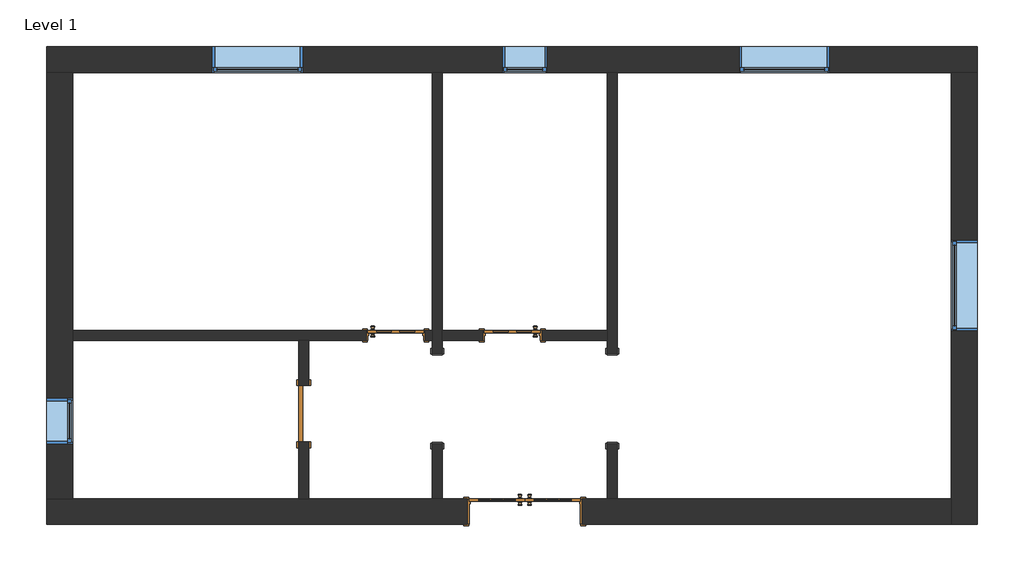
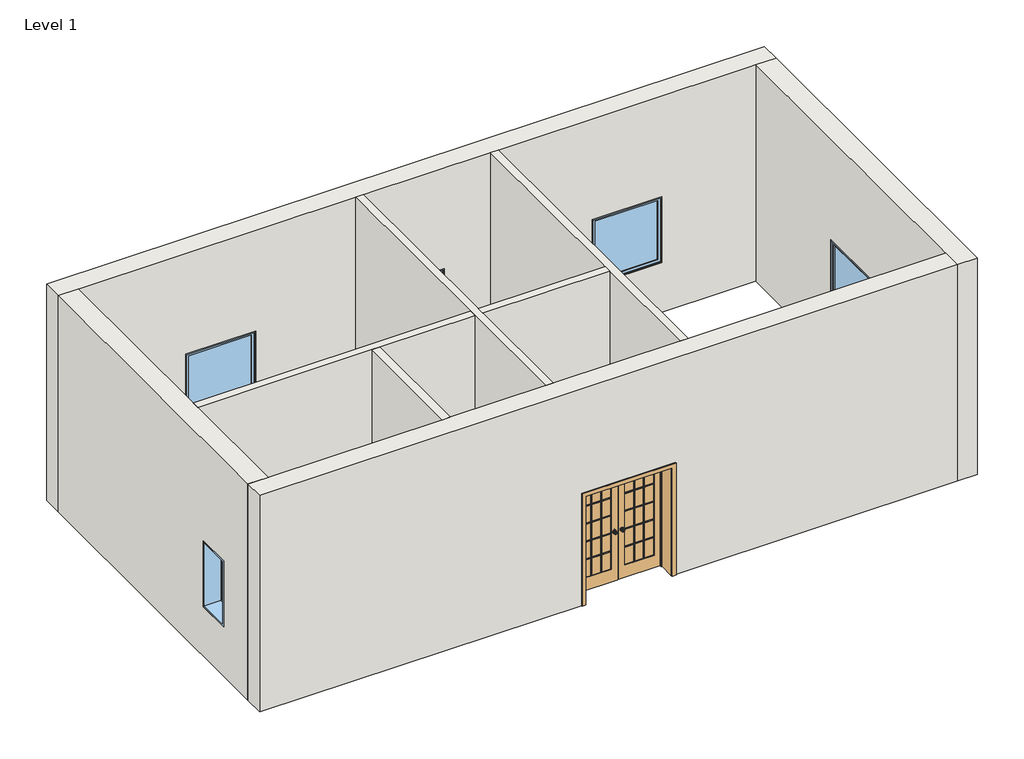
# One storey: 8 walls, 5 windows, 4 doors, 2 proxies.
"""IFC4 building model written with IfcOpenShell, lengths in millimetres."""

from ifc_helpers import new_model, si_unit, frame, origin, place, context, project, spatial, polyline, outline, extrude, faceted_brep, transform, mapped, element, save
from components import m_passage_opening_cased_1220_x_2134mm_87a8d9c2, m_door_interior_double_full_glass_wood_1500_x_2000mm_952f4878, m_door_interior_single_4_panel_wood_750_x_2000mm_f921d021, m_door_interior_single_4_panel_wood_750_x_2000mm_e4180e06, m_single_flush_0762_x_2134mm_0d89e411, m_fixed_0610_x_1220mm_2c28ef1d, m_fixed_1220_x_1220mm_e08ff7af

model = new_model("IFC4")

# Units and contexts
model_context = context("Model", 3, world=origin())
ifc_project = project(units=[si_unit("LENGTHUNIT", "METRE", prefix="MILLI")], contexts=[model_context])

# Site, building, storey
site = spatial("IfcSite", under=ifc_project)
building = spatial("IfcBuilding", under=site)
storey = spatial("IfcBuildingStorey", under=building, Name="Level 1", Elevation=0.0)

# Proxies
placement = place(None, origin())
m_passage_opening_cased_1220_x_2134mm_shape = m_passage_opening_cased_1220_x_2134mm_87a8d9c2(model_context)
element("IfcBuildingElementProxy", 1, Name="M_Passage Opening-Cased : 1220 x 2134mm", ObjectType="M_Passage Opening-Cased : 1220 x 2134mm", at=placement, inside=storey, context=model_context, shape_type="MappedRepresentation", body=[
    mapped(m_passage_opening_cased_1220_x_2134mm_shape, transform((-7665.3416203, -1982.6925047, 0.0), x_axis=(0.0, 1.0, 0.0), y_axis=(-1.0, 0.0, 0.0), z_axis=(0.0, 0.0, 1.0))),
])
element("IfcBuildingElementProxy", 2, Name="M_Passage Opening-Cased : 1220 x 2134mm", ObjectType="M_Passage Opening-Cased : 1220 x 2134mm", at=placement, inside=storey, context=model_context, shape_type="MappedRepresentation", body=[
    mapped(m_passage_opening_cased_1220_x_2134mm_shape, transform((-10019.0916203, -1999.0698181, 0.0), x_axis=(0.0, -1.0, 0.0), y_axis=(1.0, 0.0, 0.0), z_axis=(0.0, 0.0, 1.0))),
])

# Doors
m_door_interior_double_full_glass_wood_1500_x_2000mm_shape = m_door_interior_double_full_glass_wood_1500_x_2000mm_952f4878(model_context)
element("IfcDoor", 3, ObjectType="M_Door-Interior-Double-Full Glass-Wood : 1500 x 2000mm", at=placement, inside=storey, context=model_context, shape_type="MappedRepresentation", body=[
    mapped(m_door_interior_double_full_glass_wood_1500_x_2000mm_shape, transform((-8842.2166203, -3511.7061614, 0.0), x_axis=(1.0, 0.0, 0.0), y_axis=(0.0, 1.0, 0.0), z_axis=(0.0, 0.0, 1.0))),
])
m_door_interior_single_4_panel_wood_750_x_2000mm_shape = m_door_interior_single_4_panel_wood_750_x_2000mm_f921d021(model_context)
element("IfcDoor", 4, ObjectType="M_Door-Interior-Single-4_Panel-Wood : 750 x 2000mm", at=placement, inside=storey, context=model_context, shape_type="MappedRepresentation", body=[
    mapped(m_door_interior_single_4_panel_wood_750_x_2000mm_shape, transform((-9010.0916203, -1134.9561614, 0.0), x_axis=(-1.0, 0.0, 0.0), y_axis=(0.0, -1.0, 0.0), z_axis=(0.0, 0.0, 1.0))),
])
m_door_interior_single_4_panel_wood_750_x_2000mm_2_shape = m_door_interior_single_4_panel_wood_750_x_2000mm_e4180e06(model_context)
element("IfcDoor", 5, ObjectType="M_Door-Interior-Single-4_Panel-Wood : 750 x 2000mm", at=placement, inside=storey, context=model_context, shape_type="MappedRepresentation", body=[
    mapped(m_door_interior_single_4_panel_wood_750_x_2000mm_2_shape, transform((-10580.9666203, -1134.9561614, 0.0), x_axis=(1.0, 0.0, 0.0), y_axis=(0.0, 1.0, 0.0), z_axis=(0.0, 0.0, 1.0))),
])
m_single_flush_0762_x_2134mm_shape = m_single_flush_0762_x_2134mm_0d89e411(model_context)
element("IfcDoor", 6, ObjectType="M_Single-Flush : 0762 x 2134mm", at=placement, inside=storey, context=model_context, shape_type="MappedRepresentation", body=[
    mapped(m_single_flush_0762_x_2134mm_shape, transform((-11819.5916203, -2196.8811614, 0.0), x_axis=(0.0, 1.0, 0.0), y_axis=(-1.0, 0.0, 0.0), z_axis=(0.0, 0.0, 1.0))),
])

# Walls
element("IfcWall", 7, ObjectType="Exterior - Brick on Mtl. Stud", at=placement, inside=storey, context=model_context, shape_type="Brep", body=[
    faceted_brep([(-15285.3416203, 2406.1188386, 0.0), (-14935.3416203, 2406.1188386, 0.0), (-10086.8416203, 2406.1188386, 0.0), (-9951.3416203, 2406.1188386, 0.0), (-7733.0916203, 2406.1188386, 0.0), (-7597.5916203, 2406.1188386, 0.0), (-3093.3416203, 2406.1188386, 0.0), (-2743.3416203, 2406.1188386, 0.0), (-2743.3416203, 2406.1188386, 4000.0), (-3093.3416203, 2406.1188386, 4000.0), (-7597.5916203, 2406.1188386, 4000.0), (-7733.0916203, 2406.1188386, 4000.0), (-9951.3416203, 2406.1188386, 4000.0), (-10086.8416203, 2406.1188386, 4000.0), (-14935.3416203, 2406.1188386, 4000.0), (-15285.3416203, 2406.1188386, 4000.0), (-8537.1916203, 2406.1188386, 915.0), (-9147.1916203, 2406.1188386, 915.0), (-9147.1916203, 2406.1188386, 2135.0), (-8537.1916203, 2406.1188386, 2135.0), (-11833.3416203, 2406.1188386, 915.0), (-13053.3416203, 2406.1188386, 915.0), (-13053.3416203, 2406.1188386, 2135.0), (-11833.3416203, 2406.1188386, 2135.0), (-4735.4666203, 2406.1188386, 915.0), (-5955.4666203, 2406.1188386, 915.0), (-5955.4666203, 2406.1188386, 2135.0), (-4735.4666203, 2406.1188386, 2135.0), (-15285.3416203, 2756.1188386, 0.0), (-15285.3416203, 2756.1188386, 4000.0), (-2743.3416203, 2756.1188386, 4000.0), (-2743.3416203, 2756.1188386, 0.0), (-8537.1916203, 2756.1188386, 915.0), (-8537.1916203, 2756.1188386, 2135.0), (-9147.1916203, 2756.1188386, 2135.0), (-9147.1916203, 2756.1188386, 915.0), (-11833.3416203, 2756.1188386, 915.0), (-11833.3416203, 2756.1188386, 2135.0), (-13053.3416203, 2756.1188386, 2135.0), (-13053.3416203, 2756.1188386, 915.0), (-4735.4666203, 2756.1188386, 915.0), (-4735.4666203, 2756.1188386, 2135.0), (-5955.4666203, 2756.1188386, 2135.0), (-5955.4666203, 2756.1188386, 915.0)], [[[0, 1, 2, 3, 4, 5, 6, 7, 8, 9, 10, 11, 12, 13, 14, 15], [16, 17, 18, 19], [20, 21, 22, 23], [24, 25, 26, 27]], [[28, 29, 30, 31], [32, 33, 34, 35], [36, 37, 38, 39], [40, 41, 42, 43]], [[7, 6, 5, 4, 3, 2, 1, 0, 28, 31]], [[15, 14, 13, 12, 11, 10, 9, 8, 30, 29]], [[8, 7, 31, 30]], [[0, 15, 29, 28]], [[33, 32, 16, 19]], [[34, 33, 19, 18]], [[35, 34, 18, 17]], [[32, 35, 17, 16]], [[37, 36, 20, 23]], [[38, 37, 23, 22]], [[39, 38, 22, 21]], [[36, 39, 21, 20]], [[41, 40, 24, 27]], [[42, 41, 27, 26]], [[43, 42, 26, 25]], [[40, 43, 25, 24]]]),
])
element("IfcWall", 8, ObjectType="Exterior - Brick on Mtl. Stud", at=placement, inside=storey, context=model_context, shape_type="Brep", body=[
    faceted_brep([(-3093.3416203, 2406.1188386, 0.0), (-3093.3416203, -3339.8811614, 0.0), (-3093.3416203, -3689.8811614, 0.0), (-3093.3416203, -3689.8811614, 4000.0), (-3093.3416203, -3339.8811614, 4000.0), (-3093.3416203, 2406.1188386, 4000.0), (-3093.3416203, -1076.8811614, 915.0), (-3093.3416203, 143.1188386, 915.0), (-3093.3416203, 143.1188386, 2135.0), (-3093.3416203, -1076.8811614, 2135.0), (-2743.3416203, 2406.1188386, 0.0), (-2743.3416203, 2406.1188386, 4000.0), (-2743.3416203, -3689.8811614, 4000.0), (-2743.3416203, -3689.8811614, 0.0), (-2743.3416203, -1076.8811614, 915.0), (-2743.3416203, -1076.8811614, 2135.0), (-2743.3416203, 143.1188386, 2135.0), (-2743.3416203, 143.1188386, 915.0)], [[[0, 1, 2, 3, 4, 5], [6, 7, 8, 9]], [[10, 11, 12, 13], [14, 15, 16, 17]], [[2, 1, 0, 10, 13]], [[5, 4, 3, 12, 11]], [[0, 5, 11, 10]], [[3, 2, 13, 12]], [[15, 14, 6, 9]], [[16, 15, 9, 8]], [[17, 16, 8, 7]], [[14, 17, 7, 6]]]),
])
element("IfcWall", 9, ObjectType="Exterior - Brick on Mtl. Stud", at=placement, inside=storey, context=model_context, shape_type="Brep", body=[
    faceted_brep([(-15285.3416203, -3339.8811614, 4000.0), (-14935.3416203, -3339.8811614, 4000.0), (-11887.3416203, -3339.8811614, 4000.0), (-11751.8416203, -3339.8811614, 4000.0), (-10086.8416203, -3339.8811614, 4000.0), (-9951.3416203, -3339.8811614, 4000.0), (-7733.0916203, -3339.8811614, 4000.0), (-7597.5916203, -3339.8811614, 4000.0), (-3093.3416203, -3339.8811614, 4000.0), (-3093.3416203, -3339.8811614, 0.0), (-7597.5916203, -3339.8811614, 0.0), (-7733.0916203, -3339.8811614, 0.0), (-8067.2166203, -3339.8811614, 0.0), (-8067.2166203, -3339.8811614, 2025.0), (-9617.2166203, -3339.8811614, 2025.0), (-9617.2166203, -3339.8811614, 0.0), (-9951.3416203, -3339.8811614, 0.0), (-10086.8416203, -3339.8811614, 0.0), (-11751.8416203, -3339.8811614, 0.0), (-11887.3416203, -3339.8811614, 0.0), (-14935.3416203, -3339.8811614, 0.0), (-15285.3416203, -3339.8811614, 0.0), (-3093.3416203, -3689.8811614, 4000.0), (-15285.3416203, -3689.8811614, 4000.0), (-15285.3416203, -3689.8811614, 0.0), (-9617.2166203, -3689.8811614, 0.0), (-9617.2166203, -3689.8811614, 2025.0), (-8067.2166203, -3689.8811614, 2025.0), (-8067.2166203, -3689.8811614, 0.0), (-3093.3416203, -3689.8811614, 0.0)], [[[0, 1, 2, 3, 4, 5, 6, 7, 8, 9, 10, 11, 12, 13, 14, 15, 16, 17, 18, 19, 20, 21]], [[22, 23, 24, 25, 26, 27, 28, 29]], [[9, 29, 28, 12, 11, 10]], [[24, 21, 20, 19, 18, 17, 16, 15, 25]], [[8, 7, 6, 5, 4, 3, 2, 1, 0, 23, 22]], [[9, 8, 22, 29]], [[0, 21, 24, 23]], [[27, 13, 12, 28]], [[13, 27, 26, 14]], [[14, 26, 25, 15]]]),
])
element("IfcWall", 10, ObjectType="Exterior - Brick on Mtl. Stud", at=placement, inside=storey, context=model_context, shape_type="Brep", body=[
    faceted_brep([(-14935.3416203, -3339.8811614, 0.0), (-14935.3416203, -1205.8811614, 0.0), (-14935.3416203, -1070.3811614, 0.0), (-14935.3416203, 2406.1188386, 0.0), (-14935.3416203, 2406.1188386, 4000.0), (-14935.3416203, -1070.3811614, 4000.0), (-14935.3416203, -1205.8811614, 4000.0), (-14935.3416203, -3339.8811614, 4000.0), (-14935.3416203, -1989.8811614, 915.0), (-14935.3416203, -2599.8811614, 915.0), (-14935.3416203, -2599.8811614, 2135.0), (-14935.3416203, -1989.8811614, 2135.0), (-15285.3416203, -3339.8811614, 0.0), (-15285.3416203, -3339.8811614, 4000.0), (-15285.3416203, 2406.1188386, 4000.0), (-15285.3416203, 2406.1188386, 0.0), (-15285.3416203, -1989.8811614, 915.0), (-15285.3416203, -1989.8811614, 2135.0), (-15285.3416203, -2599.8811614, 2135.0), (-15285.3416203, -2599.8811614, 915.0)], [[[0, 1, 2, 3, 4, 5, 6, 7], [8, 9, 10, 11]], [[12, 13, 14, 15], [16, 17, 18, 19]], [[3, 2, 1, 0, 12, 15]], [[7, 6, 5, 4, 14, 13]], [[0, 7, 13, 12]], [[4, 3, 15, 14]], [[17, 16, 8, 11]], [[18, 17, 11, 10]], [[19, 18, 10, 9]], [[16, 19, 9, 8]]]),
])
element("IfcWall", 11, ObjectType="Interior - 135mm Partition (2-hr)", at=placement, inside=storey, context=model_context, shape_type="Brep", body=[
    faceted_brep([(-7733.0916203, 2406.1188386, 0.0), (-7733.0916203, -1070.3811614, 0.0), (-7733.0916203, -1205.8811614, 0.0), (-7733.0916203, -1380.8811614, 0.0), (-7733.0916203, -1380.8811614, 2134.0), (-7733.0916203, -2600.8811614, 2134.0), (-7733.0916203, -2600.8811614, 0.0), (-7733.0916203, -3339.8811614, 0.0), (-7733.0916203, -3339.8811614, 4000.0), (-7733.0916203, -1205.8811614, 4000.0), (-7733.0916203, -1070.3811614, 4000.0), (-7733.0916203, 2406.1188386, 4000.0), (-7597.5916203, -1380.8811614, 2134.0), (-7597.5916203, -1380.8811614, 0.0), (-7597.5916203, 2406.1188386, 0.0), (-7597.5916203, 2406.1188386, 4000.0), (-7597.5916203, -3339.8811614, 4000.0), (-7597.5916203, -3339.8811614, 0.0), (-7597.5916203, -2600.8811614, 0.0), (-7597.5916203, -2600.8811614, 2134.0)], [[[0, 1, 2, 3, 4, 5, 6, 7, 8, 9, 10, 11]], [[12, 13, 14, 15, 16, 17, 18, 19]], [[18, 17, 7, 6]], [[14, 13, 3, 2, 1, 0]], [[11, 10, 9, 8, 16, 15]], [[0, 11, 15, 14]], [[8, 7, 17, 16]], [[6, 5, 19, 18]], [[4, 3, 13, 12]], [[5, 4, 12, 19]]]),
])
element("IfcWall", 12, ObjectType="Interior - 135mm Partition (2-hr)", at=placement, inside=storey, context=model_context, shape_type="Brep", body=[
    faceted_brep([(-10086.8416203, -2600.8811614, 2134.0), (-10086.8416203, -2600.8811614, 0.0), (-10086.8416203, -3339.8811614, 0.0), (-10086.8416203, -3339.8811614, 4000.0), (-10086.8416203, -1205.8811614, 4000.0), (-10086.8416203, -1070.3811614, 4000.0), (-10086.8416203, 2406.1188386, 4000.0), (-10086.8416203, 2406.1188386, 0.0), (-10086.8416203, -1070.3811614, 0.0), (-10086.8416203, -1205.8811614, 0.0), (-10086.8416203, -1380.8811614, 0.0), (-10086.8416203, -1380.8811614, 2134.0), (-9951.3416203, -3339.8811614, 0.0), (-9951.3416203, -2600.8811614, 0.0), (-9951.3416203, -2600.8811614, 2134.0), (-9951.3416203, -1380.8811614, 2134.0), (-9951.3416203, -1380.8811614, 0.0), (-9951.3416203, -1205.8811614, 0.0), (-9951.3416203, -1070.3811614, 0.0), (-9951.3416203, 2406.1188386, 0.0), (-9951.3416203, 2406.1188386, 4000.0), (-9951.3416203, -1070.3811614, 4000.0), (-9951.3416203, -1205.8811614, 4000.0), (-9951.3416203, -3339.8811614, 4000.0)], [[[0, 1, 2, 3, 4, 5, 6, 7, 8, 9, 10, 11]], [[12, 13, 14, 15, 16, 17, 18, 19, 20, 21, 22, 23]], [[2, 1, 13, 12]], [[10, 9, 8, 7, 19, 18, 17, 16]], [[6, 5, 4, 3, 23, 22, 21, 20]], [[7, 6, 20, 19]], [[3, 2, 12, 23]], [[16, 15, 11, 10]], [[14, 13, 1, 0]], [[15, 14, 0, 11]]]),
])
element("IfcWall", 13, ObjectType="Interior - 135mm Partition (2-hr)", at=placement, inside=storey, context=model_context, shape_type="Brep", body=[
    faceted_brep([(-14935.3416203, -1205.8811614, 4000.0), (-14935.3416203, -1205.8811614, 0.0), (-11887.3416203, -1205.8811614, 0.0), (-11751.8416203, -1205.8811614, 0.0), (-10980.9666203, -1205.8811614, 0.0), (-10980.9666203, -1205.8811614, 2025.0), (-10180.9666203, -1205.8811614, 2025.0), (-10180.9666203, -1205.8811614, 0.0), (-10086.8416203, -1205.8811614, 0.0), (-10086.8416203, -1205.8811614, 4000.0), (-11751.8416203, -1205.8811614, 4000.0), (-11887.3416203, -1205.8811614, 4000.0), (-14935.3416203, -1070.3811614, 0.0), (-14935.3416203, -1070.3811614, 4000.0), (-10086.8416203, -1070.3811614, 4000.0), (-10086.8416203, -1070.3811614, 0.0), (-10180.9666203, -1070.3811614, 0.0), (-10180.9666203, -1070.3811614, 2025.0), (-10980.9666203, -1070.3811614, 2025.0), (-10980.9666203, -1070.3811614, 0.0)], [[[0, 1, 2, 3, 4, 5, 6, 7, 8, 9, 10, 11]], [[12, 13, 14, 15, 16, 17, 18, 19]], [[1, 12, 19, 4, 3, 2]], [[7, 16, 15, 8]], [[13, 0, 11, 10, 9, 14]], [[1, 0, 13, 12]], [[9, 8, 15, 14]], [[6, 17, 16, 7]], [[17, 6, 5, 18]], [[18, 5, 4, 19]]]),
    faceted_brep([(-7733.0916203, -1205.8811614, 0.0), (-7733.0916203, -1205.8811614, 4000.0), (-9951.3416203, -1205.8811614, 4000.0), (-9951.3416203, -1205.8811614, 0.0), (-9410.0916203, -1205.8811614, 0.0), (-9410.0916203, -1205.8811614, 2025.0), (-8610.0916203, -1205.8811614, 2025.0), (-8610.0916203, -1205.8811614, 0.0), (-7733.0916203, -1070.3811614, 4000.0), (-7733.0916203, -1070.3811614, 0.0), (-8610.0916203, -1070.3811614, 0.0), (-8610.0916203, -1070.3811614, 2025.0), (-9410.0916203, -1070.3811614, 2025.0), (-9410.0916203, -1070.3811614, 0.0), (-9951.3416203, -1070.3811614, 0.0), (-9951.3416203, -1070.3811614, 4000.0)], [[[0, 1, 2, 3, 4, 5, 6, 7]], [[8, 9, 10, 11, 12, 13, 14, 15]], [[9, 0, 7, 10]], [[13, 4, 3, 14]], [[1, 8, 15, 2]], [[1, 0, 9, 8]], [[3, 2, 15, 14]], [[5, 4, 13, 12]], [[6, 5, 12, 11]], [[7, 6, 11, 10]]]),
])
element("IfcWall", 14, ObjectType="Interior - 135mm Partition (2-hr)", at=placement, inside=storey, context=model_context, shape_type="SweptSolid", body=[
    extrude(outline(polyline([(-1205.8811614, 0.0), (-1815.8811614, 0.0), (-1815.8811614, 2134.0), (-2577.8811614, 2134.0), (-2577.8811614, 0.0), (-3339.8811614, 0.0), (-3339.8811614, 4000.0), (-1205.8811614, 4000.0), (-1205.8811614, 0.0)])), frame((-11887.3416203, 0.0, 0.0), z_axis=(1.0, 0.0, 0.0), x_axis=(0.0, 1.0, 0.0)), (0.0, 0.0, 1.0), 135.5),
])

# Windows
m_fixed_0610_x_1220mm_shape = m_fixed_0610_x_1220mm_2c28ef1d(model_context)
element("IfcWindow", 15, ObjectType="M_Fixed : 0610 x 1220mm", at=placement, inside=storey, context=model_context, shape_type="MappedRepresentation", body=[
    mapped(m_fixed_0610_x_1220mm_shape, transform((-8842.1916203, 2594.1188386, 0.0), x_axis=(-1.0, 0.0, 0.0), y_axis=(0.0, -1.0, 0.0), z_axis=(0.0, 0.0, 1.0))),
])
element("IfcWindow", 16, ObjectType="M_Fixed : 0610 x 1220mm", at=placement, inside=storey, context=model_context, shape_type="MappedRepresentation", body=[
    mapped(m_fixed_0610_x_1220mm_shape, transform((-15123.3416203, -2294.8811614, 0.0), x_axis=(0.0, -1.0, 0.0), y_axis=(1.0, 0.0, 0.0), z_axis=(0.0, 0.0, 1.0))),
])
m_fixed_1220_x_1220mm_shape = m_fixed_1220_x_1220mm_e08ff7af(model_context)
element("IfcWindow", 17, ObjectType="M_Fixed : 1220 x 1220mm", at=placement, inside=storey, context=model_context, shape_type="MappedRepresentation", body=[
    mapped(m_fixed_1220_x_1220mm_shape, transform((-12443.3416203, 2594.1188386, 0.0), x_axis=(-1.0, 0.0, 0.0), y_axis=(0.0, -1.0, 0.0), z_axis=(0.0, 0.0, 1.0))),
])
element("IfcWindow", 18, ObjectType="M_Fixed : 1220 x 1220mm", at=placement, inside=storey, context=model_context, shape_type="MappedRepresentation", body=[
    mapped(m_fixed_1220_x_1220mm_shape, transform((-5345.4666203, 2594.1188386, 0.0), x_axis=(-1.0, 0.0, 0.0), y_axis=(0.0, -1.0, 0.0), z_axis=(0.0, 0.0, 1.0))),
])
element("IfcWindow", 19, ObjectType="M_Fixed : 1220 x 1220mm", at=placement, inside=storey, context=model_context, shape_type="MappedRepresentation", body=[
    mapped(m_fixed_1220_x_1220mm_shape, transform((-2905.3416203, -466.8811614, 0.0), x_axis=(0.0, 1.0, 0.0), y_axis=(-1.0, 0.0, 0.0), z_axis=(0.0, 0.0, 1.0))),
])

save(model, "model.ifc")
